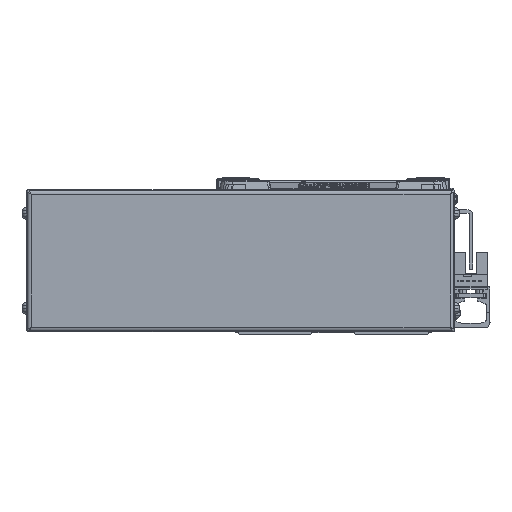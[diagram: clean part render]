
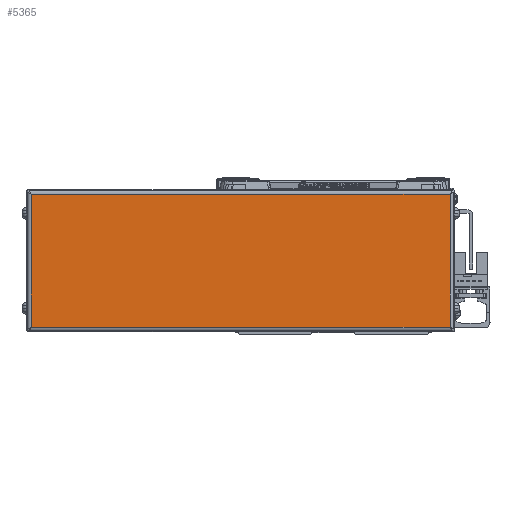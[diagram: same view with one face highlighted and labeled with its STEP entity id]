
A CAD part, left-side view. The second image highlights one B-rep face of the part: STEP entity #5365.
In plain terms, the highlighted planar face has unit normal (-1, 0, 0).
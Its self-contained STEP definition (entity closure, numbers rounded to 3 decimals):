
#5365=ADVANCED_FACE('',(#11980),#11981,.F.);
#11980=FACE_OUTER_BOUND('',#20434,.T.);
#11981=PLANE('',#20435);
#20434=EDGE_LOOP('',(#35926,#35927,#35928,#35929));
#20435=AXIS2_PLACEMENT_3D('',#35930,#35931,#35932);
#35926=ORIENTED_EDGE('',*,*,#52259,.T.);
#35927=ORIENTED_EDGE('',*,*,#51418,.T.);
#35928=ORIENTED_EDGE('',*,*,#49743,.T.);
#35929=ORIENTED_EDGE('',*,*,#49133,.T.);
#35930=CARTESIAN_POINT('',(-616.,39.,0.));
#35931=DIRECTION('',(1.0,0.,0.));
#35932=DIRECTION('',(0.,0.,1.0));
#49133=EDGE_CURVE('',#58976,#58974,#58977,.T.);
#49743=EDGE_CURVE('',#60031,#58976,#60032,.T.);
#51418=EDGE_CURVE('',#62824,#60031,#62825,.T.);
#52259=EDGE_CURVE('',#58974,#62824,#64145,.T.);
#58974=VERTEX_POINT('',#72888);
#58976=VERTEX_POINT('',#72890);
#58977=LINE('',#72891,#72892);
#60031=VERTEX_POINT('',#74284);
#60032=LINE('',#74285,#74286);
#62824=VERTEX_POINT('',#78214);
#62825=LINE('',#78215,#78216);
#64145=LINE('',#80095,#80096);
#72888=CARTESIAN_POINT('',(-616.,-49.2,28.));
#72890=CARTESIAN_POINT('',(-616.,-49.2,-28.));
#72891=CARTESIAN_POINT('',(-616.,-49.2,0.));
#72892=VECTOR('',#90195,10.0);
#74284=CARTESIAN_POINT('',(-616.0,127.2,-28.));
#74285=CARTESIAN_POINT('',(-616.,39.,-28.));
#74286=VECTOR('',#91040,10.0);
#78214=CARTESIAN_POINT('',(-616.,127.2,28.));
#78215=CARTESIAN_POINT('',(-616.0,127.2,0.));
#78216=VECTOR('',#93414,10.0);
#80095=CARTESIAN_POINT('',(-616.,39.,28.));
#80096=VECTOR('',#94486,10.0);
#90195=DIRECTION('',(0.,0.,1.0));
#91040=DIRECTION('',(0.,-1.0,0.));
#93414=DIRECTION('',(0.,0.,-1.0));
#94486=DIRECTION('',(0.,1.0,0.));
